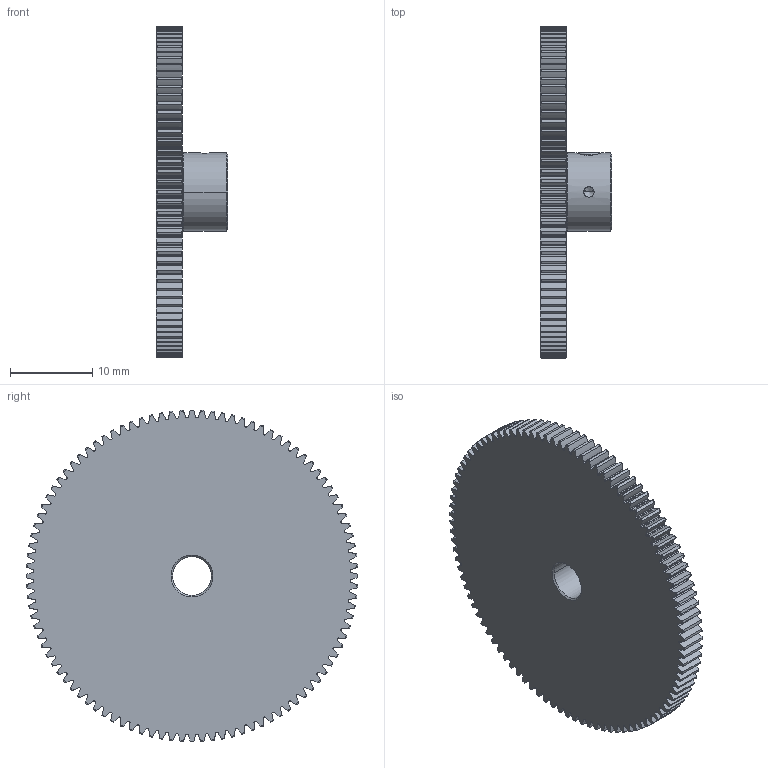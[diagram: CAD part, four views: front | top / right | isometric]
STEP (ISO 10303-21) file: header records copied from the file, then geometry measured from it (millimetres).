
FILE_DESCRIPTION((''),'2;1');
FILE_NAME('42600','2011-01-23T',('carefree'),(''),'PRO/ENGINEER BY PARAMETRIC TECHNOLOGY CORPORATION, 2005030','PRO/ENGINEER BY PARAMETRIC TECHNOLOGY CORPORATION, 2005030','');
FILE_SCHEMA(('CONFIG_CONTROL_DESIGN'));
Length unit declared in the file: inch
Products named in the file (1): 42600
Bounding box: 8.71 x 40.48 x 40.48 mm (x, y, z)
Volume: 4148.6 mm3; surface area: 3553.2 mm2
Topology: 2 solids, 2 shells, 846 faces, 2499 edges, 1657 vertices
Faces by surface type: cylinder 412, torus 202, extrusion 200, plane 18, cone 12, bspline 2
Entity records: 34507 total; most frequent: CARTESIAN_POINT 12480, ORIENTED_EDGE 4994, DIRECTION 4207, EDGE_CURVE 2497, AXIS2_PLACEMENT_3D 1676, VERTEX_POINT 1657, CIRCLE 1032, B_SPLINE_CURVE_WITH_KNOTS 1010
